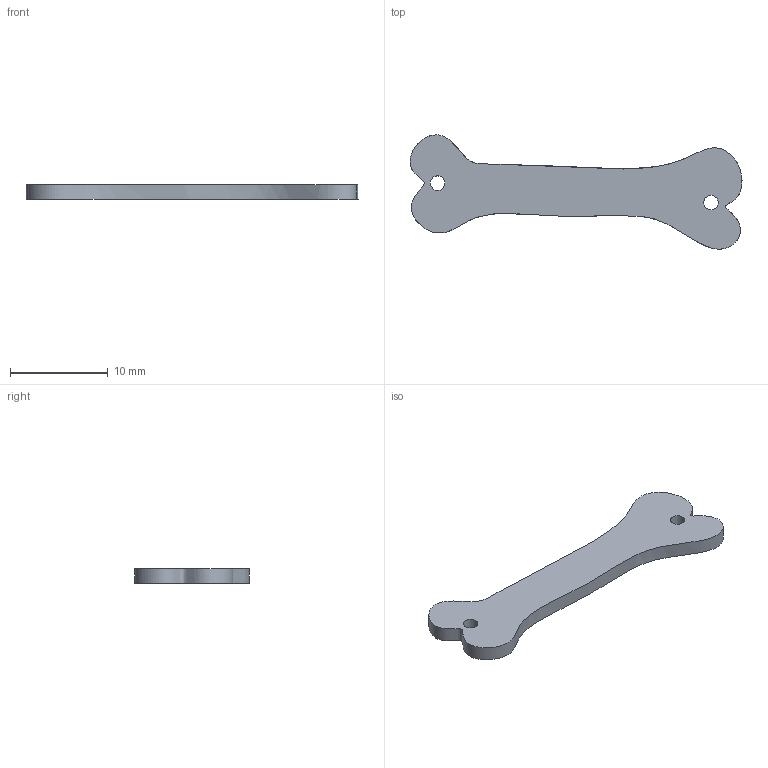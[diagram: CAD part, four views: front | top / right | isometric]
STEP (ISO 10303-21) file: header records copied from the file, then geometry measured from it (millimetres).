
FILE_DESCRIPTION(/* description */ ('','CAx-IF Rec.Pracs.---Representation and Presentation of Product Manufacturing Information (PMI)---4.0---2014-10-13'),/* implementation_level */ '2;1');
FILE_NAME(/* name */ 'Skelette_Unterschenkel.step',/* time_stamp */ '2025-01-30T08:50:39+01:00',/* author */ (''),/* organization */ (''),/* preprocessor_version */ 'ST-DEVELOPER v20',/* originating_system */ 'Autodesk Translation Framework v13.20.0.188',/* authorisation */ '');
FILE_SCHEMA (('AP242_MANAGED_MODEL_BASED_3D_ENGINEERING_MIM_LF { 1 0 10303 442 1 1 4 }'));
Length unit declared in the file: millimetre
Products named in the file (1): 01_Skelette_Unterschenkel
Bounding box: 34.04 x 11.71 x 1.5 mm (x, y, z)
Volume: 438.8 mm3; surface area: 571.6 mm2
Topology: 1 solids, 1 shells, 5 faces, 9 edges, 6 vertices
Faces by surface type: cylinder 2, plane 2, bspline 1
Full cylindrical faces by diameter (mm): 1.5 x2
Entity records: 515 total; most frequent: CARTESIAN_POINT 378, DIRECTION 21, ORIENTED_EDGE 18, EDGE_LOOP 9, EDGE_CURVE 9, AXIS2_PLACEMENT_3D 9, VERTEX_POINT 6, FACE_OUTER_BOUND 5
